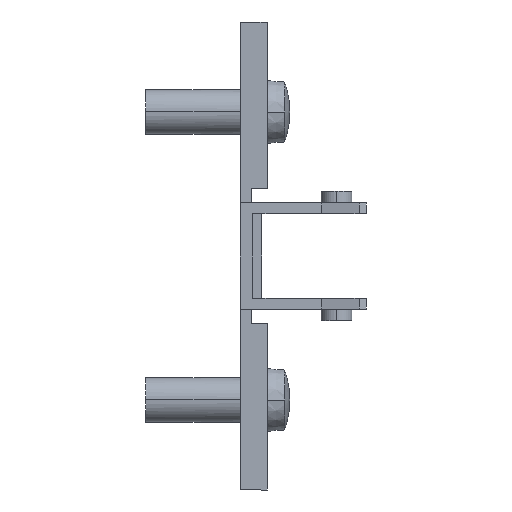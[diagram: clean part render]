
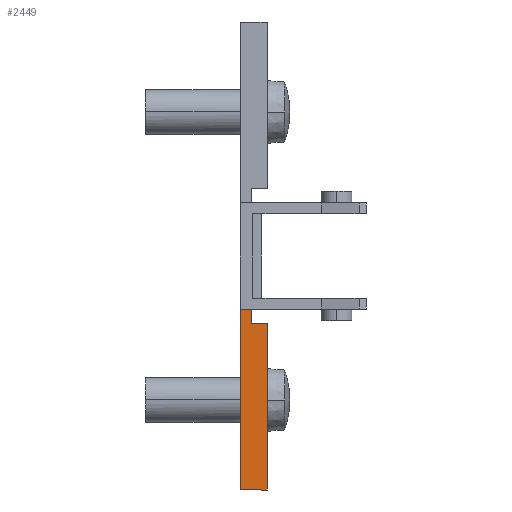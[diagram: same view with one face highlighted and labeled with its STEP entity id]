
A CAD part, front view. The second image highlights one B-rep face of the part: STEP entity #2449.
In plain terms, the highlighted planar face has unit normal (0, -1, 0).
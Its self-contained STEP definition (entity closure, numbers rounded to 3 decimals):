
#18 = VECTOR ( 'NONE', #1082, 1000. ) ;
#19 = LINE ( 'NONE', #1081, #18 ) ;
#198 = PLANE ( 'NONE',  #3231 ) ;
#250 = DIRECTION ( 'NONE',  ( 0., 1., 0. ) ) ;
#251 = DIRECTION ( 'NONE',  ( 0., 0., 1. ) ) ;
#325 = CARTESIAN_POINT ( 'NONE',  ( 1.2, -9., -5. ) ) ;
#632 = CARTESIAN_POINT ( 'NONE',  ( 1.2, -9., -5. ) ) ;
#633 = DIRECTION ( 'NONE',  ( 0., 0., 1. ) ) ;
#714 = CARTESIAN_POINT ( 'NONE',  ( 3., -9., -7.5 ) ) ;
#721 = DIRECTION ( 'NONE',  ( 0., 0., 1. ) ) ;
#979 = CARTESIAN_POINT ( 'NONE',  ( 0., -9., -26. ) ) ;
#980 = DIRECTION ( 'NONE',  ( 0., 0., -1. ) ) ;
#1076 = CARTESIAN_POINT ( 'NONE',  ( 1.2, -9., -7.5 ) ) ;
#1081 = CARTESIAN_POINT ( 'NONE',  ( 3., -9., -26. ) ) ;
#1082 = DIRECTION ( 'NONE',  ( 1., 0., 0. ) ) ;
#1098 = DIRECTION ( 'NONE',  ( -1., 0., 0. ) ) ;
#1170 = CARTESIAN_POINT ( 'NONE',  ( 1.2, -9., -5.9 ) ) ;
#1196 = DIRECTION ( 'NONE',  ( 1., 0., 0. ) ) ;
#1358 = VERTEX_POINT ( 'NONE', #1555 ) ;
#1381 = VERTEX_POINT ( 'NONE', #1578 ) ;
#1385 = VERTEX_POINT ( 'NONE', #1582 ) ;
#1410 = VERTEX_POINT ( 'NONE', #1607 ) ;
#1429 = VERTEX_POINT ( 'NONE', #1626 ) ;
#1437 = VERTEX_POINT ( 'NONE', #1634 ) ;
#1555 = CARTESIAN_POINT ( 'NONE',  ( 0., -9., -5.9 ) ) ;
#1578 = CARTESIAN_POINT ( 'NONE',  ( 3., -9., -26. ) ) ;
#1582 = CARTESIAN_POINT ( 'NONE',  ( 3., -9., -7.5 ) ) ;
#1607 = CARTESIAN_POINT ( 'NONE',  ( 0., -9., -26. ) ) ;
#1626 = CARTESIAN_POINT ( 'NONE',  ( 1.2, -9., -7.5 ) ) ;
#1634 = CARTESIAN_POINT ( 'NONE',  ( 1.2, -9., -5.9 ) ) ;
#1673 = EDGE_LOOP ( 'NONE', ( #2987, #2988, #2989, #2990, #2991, #2992 ) ) ;
#1779 = VECTOR ( 'NONE', #980, 1000. ) ;
#1780 = LINE ( 'NONE', #979, #1779 ) ;
#1985 = LINE ( 'NONE', #714, #2000 ) ;
#2000 = VECTOR ( 'NONE', #721, 1000. ) ;
#2054 = VECTOR ( 'NONE', #633, 1000. ) ;
#2055 = LINE ( 'NONE', #632, #2054 ) ;
#2235 = FACE_OUTER_BOUND ( 'NONE', #1673, .T. ) ;
#2449 = ADVANCED_FACE ( 'NONE', ( #2235 ), #198, .F. ) ;
#2606 = VECTOR ( 'NONE', #1196, 1000. ) ;
#2614 = LINE ( 'NONE', #1170, #2606 ) ;
#2681 = EDGE_CURVE ( 'NONE', #1429, #1437, #2055, .T. ) ;
#2720 = EDGE_CURVE ( 'NONE', #1381, #1385, #1985, .T. ) ;
#2836 = EDGE_CURVE ( 'NONE', #1358, #1410, #1780, .T. ) ;
#2883 = EDGE_CURVE ( 'NONE', #1410, #1381, #19, .T. ) ;
#2891 = EDGE_CURVE ( 'NONE', #1385, #1429, #3009, .T. ) ;
#2987 = ORIENTED_EDGE ( 'NONE', *, *, #3276, .F. ) ;
#2988 = ORIENTED_EDGE ( 'NONE', *, *, #2836, .T. ) ;
#2989 = ORIENTED_EDGE ( 'NONE', *, *, #2883, .T. ) ;
#2990 = ORIENTED_EDGE ( 'NONE', *, *, #2720, .T. ) ;
#2991 = ORIENTED_EDGE ( 'NONE', *, *, #2891, .T. ) ;
#2992 = ORIENTED_EDGE ( 'NONE', *, *, #2681, .T. ) ;
#3009 = LINE ( 'NONE', #1076, #3563 ) ;
#3231 = AXIS2_PLACEMENT_3D ( 'NONE', #325, #250, #251 ) ;
#3276 = EDGE_CURVE ( 'NONE', #1358, #1437, #2614, .T. ) ;
#3563 = VECTOR ( 'NONE', #1098, 1000. ) ;
